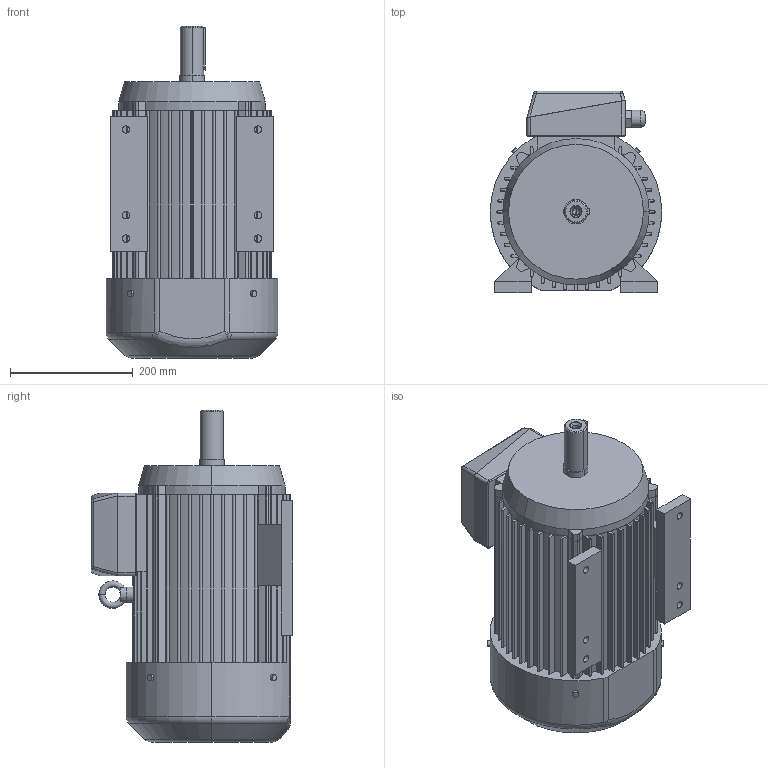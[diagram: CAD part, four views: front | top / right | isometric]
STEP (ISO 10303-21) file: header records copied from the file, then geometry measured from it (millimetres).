
FILE_DESCRIPTION (( 'STEP AP203' ), '1' );
FILE_NAME ('3SIE132S;M.STEP', '2015-01-09T07:14:35', ( 'Indukta' ), ( 'Celma Indukta S.A.' ), 'SwSTEP 2.0', 'SolidWorks 2003064', '' );
FILE_SCHEMA (( 'CONFIG_CONTROL_DESIGN' ));
Length unit declared in the file: millimetre
Products named in the file (1): 3SIE132S;M
Bounding box: 280 x 329 x 542 mm (x, y, z)
Volume: 24979812.5 mm3; surface area: 1030660.3 mm2
Topology: 17 solids, 17 shells, 410 faces, 1063 edges, 680 vertices
Faces by surface type: plane 189, cylinder 182, torus 16, cone 14, bspline 5, sphere 4
Entity records: 16293 total; most frequent: CARTESIAN_POINT 5995, DIRECTION 2214, ORIENTED_EDGE 2110, EDGE_CURVE 1055, AXIS2_PLACEMENT_3D 798, VERTEX_POINT 680, LINE 618, VECTOR 618
